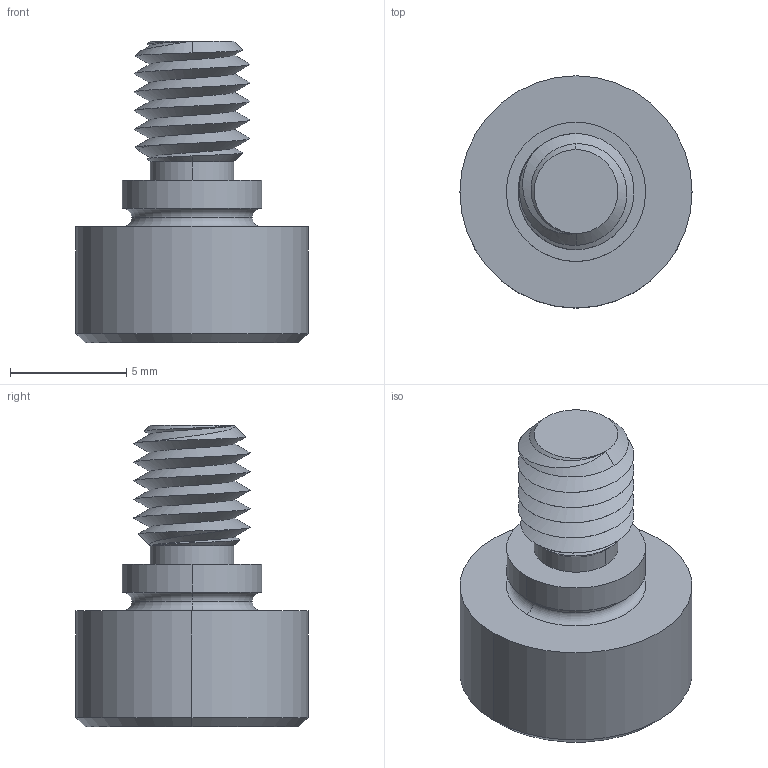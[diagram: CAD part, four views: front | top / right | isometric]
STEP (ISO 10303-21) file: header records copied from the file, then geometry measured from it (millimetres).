
FILE_DESCRIPTION (( 'STEP AP203' ), '1' );
FILE_NAME ('P0130.060-002-B2.step', '2021-11-09T21:19:36', ( '' ), ( '' ), 'SwSTEP 2.0', 'SolidWorks 2019', '' );
FILE_SCHEMA (( 'CONFIG_CONTROL_DESIGN' ));
Length unit declared in the file: millimetre
Products named in the file (1): P0130.060-002-B2
Bounding box: 10 x 10 x 13 mm (x, y, z)
Volume: 499.7 mm3; surface area: 525.2 mm2
Topology: 1 solids, 1 shells, 53 faces, 121 edges, 71 vertices
Faces by surface type: cylinder 17, plane 16, cone 14, torus 4, bspline 2
Entity records: 2367 total; most frequent: CARTESIAN_POINT 1186, ORIENTED_EDGE 238, DIRECTION 226, EDGE_CURVE 119, AXIS2_PLACEMENT_3D 92, VERTEX_POINT 71, EDGE_LOOP 56, ADVANCED_FACE 53
